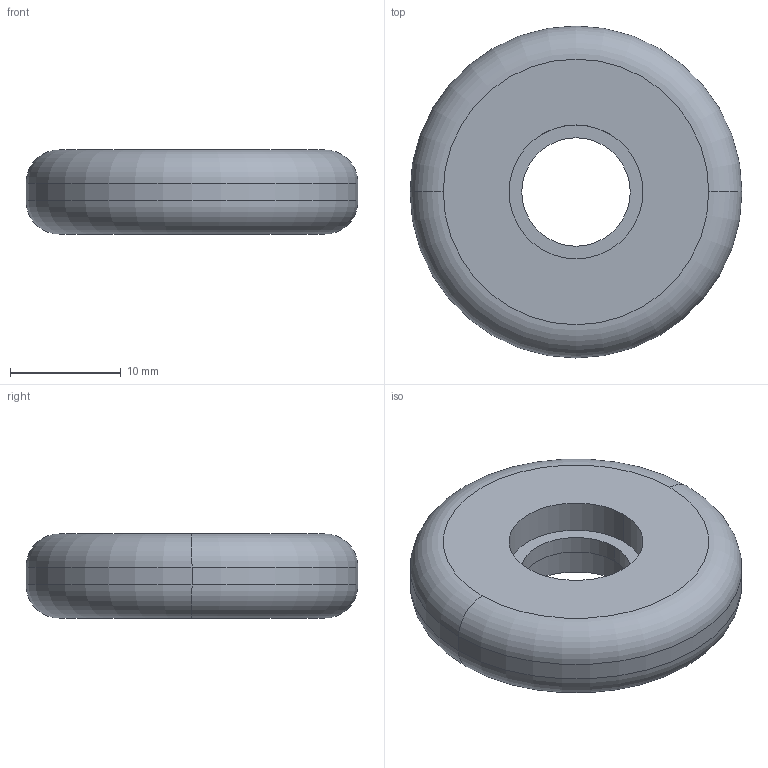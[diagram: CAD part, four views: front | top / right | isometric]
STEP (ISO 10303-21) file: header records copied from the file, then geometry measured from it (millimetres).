
FILE_DESCRIPTION (( 'STEP AP203' ), '1' );
FILE_NAME ('磁极謫怚.STEP', '2026-09-19T07:52:38', ( '' ), ( '' ), 'SwSTEP 2.0', 'SolidWorks 2021', '' );
FILE_SCHEMA (( 'CONFIG_CONTROL_DESIGN' ));
Length unit declared in the file: millimetre
Products named in the file (1): 磁极謫怚
Bounding box: 30 x 30 x 7.6 mm (x, y, z)
Volume: 4219.4 mm3; surface area: 2004.8 mm2
Topology: 1 solids, 1 shells, 16 faces, 32 edges, 20 vertices
Faces by surface type: cylinder 8, torus 4, plane 4
Entity records: 509 total; most frequent: DIRECTION 90, CARTESIAN_POINT 69, ORIENTED_EDGE 64, AXIS2_PLACEMENT_3D 41, EDGE_CURVE 32, CIRCLE 24, VERTEX_POINT 20, EDGE_LOOP 20
